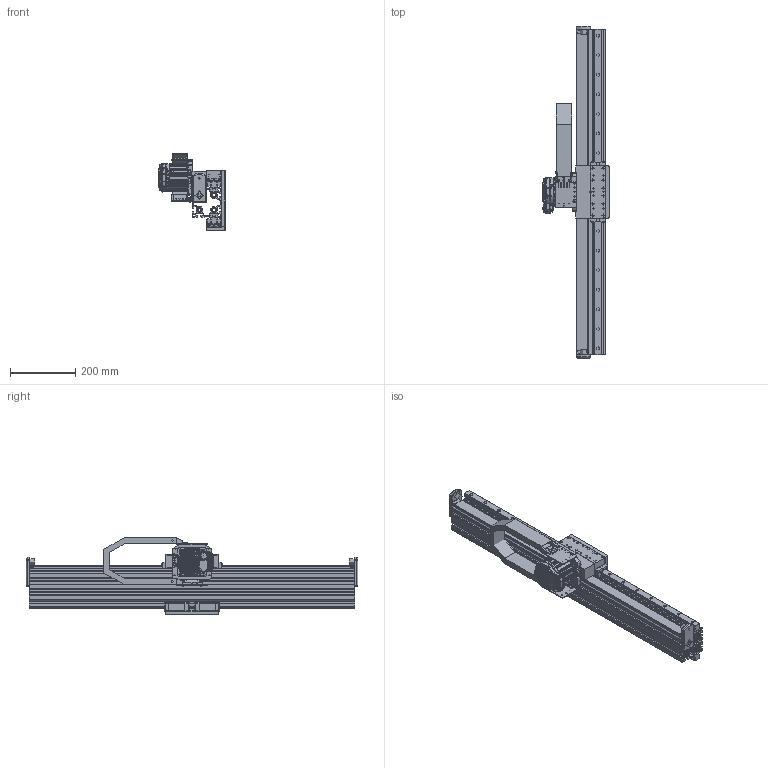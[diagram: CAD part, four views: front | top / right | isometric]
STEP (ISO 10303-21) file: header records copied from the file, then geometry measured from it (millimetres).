
FILE_DESCRIPTION( ( '' ), ' ' );
FILE_NAME( '/vol/tmp/translate-12169218338622582218/5c7eae67ecefbd1a43848e85.step', '2019-03-05T17:14:23', ( '' ), ( '' ), ' ', ' ', ' ' );
FILE_SCHEMA( ( 'AUTOMOTIVE_DESIGN { 1 0 10303 214 1 1 1 1 }' ) );
Length unit declared in the file: metre
Products named in the file (104): RAIL FASTENERS <16>; 102684-001 BOSCH 10mm T-BLOCK M5; 20mm BEARING RAIL CAP; 100001-8065 M5-.80 X 25 ALLOY SHCS; RAIL FASTENERS <3>; RAIL FASTENERS <5>; RAIL FASTENERS <15>; RAIL FASTENERS <9>; RAIL FASTENERS <12>; RAIL FASTENERS <13>; TRAY FASTENERS <4>; #8357; #8365; RAIL FASTENERS <7>; RAIL FASTENERS <4>; RAIL FASTENERS <14>; RAIL FASTENERS <10>; RAIL FASTENERS <6>; RAIL FASTENERS <2>; RAIL FASTENERS <17>; RAIL FASTENERS <1>; TRAY FASTENERS <3>; RAIL FASTENERS <8>; RAIL FASTENERS <11>; TRAY FASTENERS <2>; TRAY FASTENERS <5>; TRAY FASTENERS <1>; RAIL <2>; 106888-001 20mm RAIL COVER; 102732-1000 20mm STANDARD GUIDE RAIL; TRAY <1>; 102610-005 VHB TAPE 1-1/4 WIDE; 102656-1000 SBL-M BELT TRAY; 102567-001 T5 X 32mm BELTING; RAIL <1>; 104587-001 SBL-M DYNAMIC BEARING ASSEMBLY <1>; 103126-001 SBL-M BEARING SHAFT; 102638-005 5202 SHIELDED DOUBLE ROW BALL BEARING; 104587-001 SBL-M DYNAMIC BEARING ASSEMBLY <2>; CPM34XX & PINION <1>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
Assembly tree (274 placements, depth 5):
  Assem1
    100001-086 M8-1.25 X 20 SS SHCS  x4
    102977-001 LINKS
    102567-001 T5 X 32mm BELTING
    107370-001 SBL-M 90S GANTRY STAGE PLATE
    1000 CHASSIS <1>
      102915-1000  90-SERIES PROFILE 90X90
      RAIL <2>
        106888-001 20mm RAIL COVER
        102732-1000 20mm STANDARD GUIDE RAIL
        RAIL FASTENERS <10>
          20mm BEARING RAIL CAP
          102684-001 BOSCH 10mm T-BLOCK M5
          100001-8065 M5-.80 X 25 ALLOY SHCS
        RAIL FASTENERS <17>
          20mm BEARING RAIL CAP
          102684-001 BOSCH 10mm T-BLOCK M5
          100001-8065 M5-.80 X 25 ALLOY SHCS
        RAIL FASTENERS <4>
          100001-8065 M5-.80 X 25 ALLOY SHCS
          102684-001 BOSCH 10mm T-BLOCK M5
          20mm BEARING RAIL CAP
        RAIL FASTENERS <12>
          20mm BEARING RAIL CAP
          102684-001 BOSCH 10mm T-BLOCK M5
          100001-8065 M5-.80 X 25 ALLOY SHCS
        RAIL FASTENERS <16>
          100001-8065 M5-.80 X 25 ALLOY SHCS
          102684-001 BOSCH 10mm T-BLOCK M5
          20mm BEARING RAIL CAP
        RAIL FASTENERS <9>
          20mm BEARING RAIL CAP
          100001-8065 M5-.80 X 25 ALLOY SHCS
          102684-001 BOSCH 10mm T-BLOCK M5
        RAIL FASTENERS <7>
          100001-8065 M5-.80 X 25 ALLOY SHCS
          20mm BEARING RAIL CAP
          102684-001 BOSCH 10mm T-BLOCK M5
        RAIL FASTENERS <8>
          20mm BEARING RAIL CAP
          100001-8065 M5-.80 X 25 ALLOY SHCS
          102684-001 BOSCH 10mm T-BLOCK M5
        RAIL FASTENERS <11>
          20mm BEARING RAIL CAP
          102684-001 BOSCH 10mm T-BLOCK M5
          100001-8065 M5-.80 X 25 ALLOY SHCS
        RAIL FASTENERS <14>
          20mm BEARING RAIL CAP
          102684-001 BOSCH 10mm T-BLOCK M5
          100001-8065 M5-.80 X 25 ALLOY SHCS
        RAIL FASTENERS <5>
          102684-001 BOSCH 10mm T-BLOCK M5
          20mm BEARING RAIL CAP
          100001-8065 M5-.80 X 25 ALLOY SHCS
        RAIL FASTENERS <13>
          20mm BEARING RAIL CAP
          100001-8065 M5-.80 X 25 ALLOY SHCS
          102684-001 BOSCH 10mm T-BLOCK M5
        RAIL FASTENERS <3>
          102684-001 BOSCH 10mm T-BLOCK M5
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Bounding box: 204.62 x 1019.05 x 235.47 mm (x, y, z)
Topology: 244 solids, 249 shells, 9597 faces, 24252 edges, 15354 vertices
Faces by surface type: plane 4096, cylinder 2569, bspline 1034, torus 907, cone 801, sphere 148, extrusion 40, revolution 2
Full cylindrical faces by diameter (mm): 0.152 x1, 2.2 x31, 2.261 x25, 2.44 x25, 2.47 x4, 2.5 x32, 2.6 x8, 2.66 x8, 2.997 x4, 3 x12, 3.175 x1, 3.184 x1, 3.2 x4, 3.3 x5, 3.4 x2, 3.454 x5, 4 x2, 4.166 x5, 4.2 x13, 4.216 x16, 4.5 x7, 5 x74, 5.004 x60, 5.156 x5, 5.284 x1, 5.5 x60, 5.563 x12, 5.6 x4, 5.85 x8, 6 x23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
Entity records: 348558 total; most frequent: CARTESIAN_POINT 139629, ORIENTED_EDGE 31808, DIRECTION 31514, EDGE_CURVE 15904, AXIS2_PLACEMENT_3D 12708, VERTEX_POINT 10515, EDGE_LOOP 8324, FACE_OUTER_BOUND 7488
